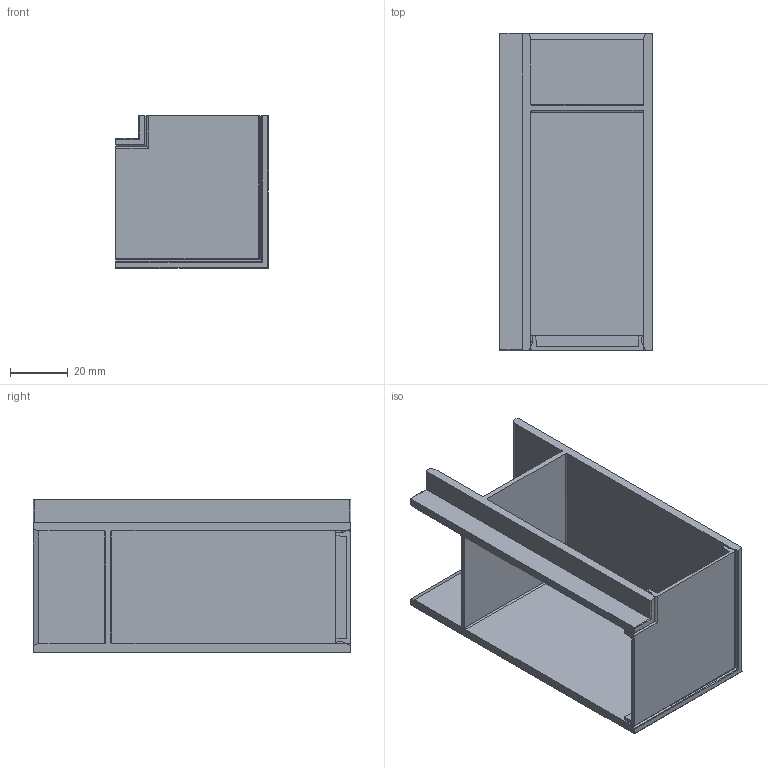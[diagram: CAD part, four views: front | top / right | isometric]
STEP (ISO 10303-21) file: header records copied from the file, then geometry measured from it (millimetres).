
FILE_DESCRIPTION(/* description */ (''),/* implementation_level */ '2;1');
FILE_NAME(/* name */ '01_x_t.stp',/* time_stamp */ '2018-03-02T11:06:53+01:00',/* author */ (''),/* organization */ (''),/* preprocessor_version */ 'ST-DEVELOPER v16',/* originating_system */ 'SIEMENS PLM Software NX 11.0',/* authorisation */ '');
FILE_SCHEMA (('AUTOMOTIVE_DESIGN { 1 0 10303 214 3 1 1 1 }'));
Length unit declared in the file: millimetre
Products named in the file (3): 01_id6_x_t; 01_id11_x_t; 01_x_t
Assembly tree (2 placements, depth 2):
  01_x_t
    01_id11_x_t
    01_id6_x_t
Bounding box: 52.75 x 110 x 52.75 mm (x, y, z)
Volume: 47438.2 mm3; surface area: 38872.6 mm2
Topology: 2 solids, 2 shells, 78 faces, 200 edges, 126 vertices
Faces by surface type: plane 46, bspline 32
Entity records: 2405 total; most frequent: CARTESIAN_POINT 599, ORIENTED_EDGE 400, DIRECTION 314, EDGE_CURVE 200, LINE 152, VECTOR 152, VERTEX_POINT 126, AXIS2_PLACEMENT_3D 81
